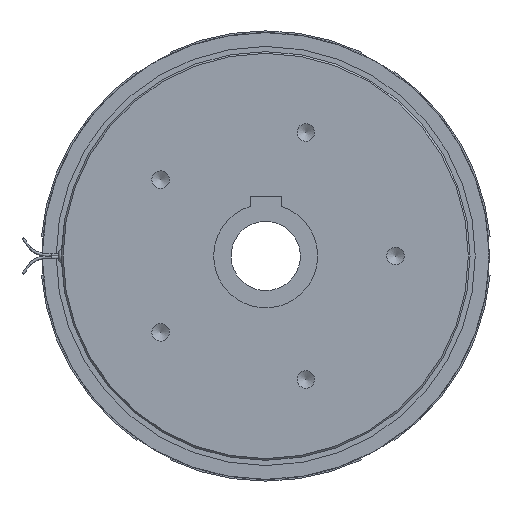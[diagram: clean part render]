
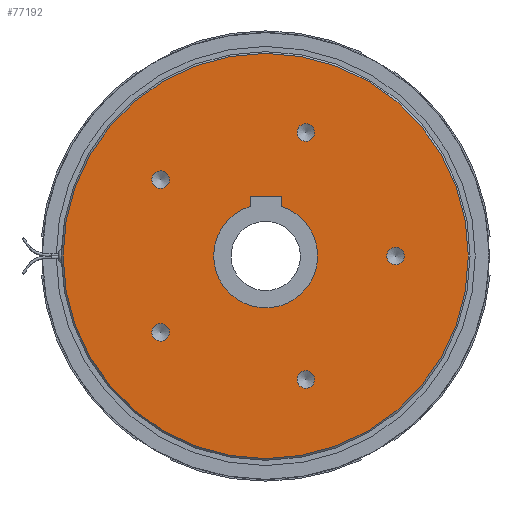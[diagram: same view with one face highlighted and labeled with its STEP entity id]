
A CAD part, left-side view. The second image highlights one B-rep face of the part: STEP entity #77192.
In plain terms, the highlighted planar face has unit normal (-1, 0, 0).
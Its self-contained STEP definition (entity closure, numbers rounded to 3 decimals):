
#898=FACE_BOUND('',#9216,.T.);
#899=FACE_BOUND('',#9217,.T.);
#900=FACE_BOUND('',#9218,.T.);
#901=FACE_BOUND('',#9219,.T.);
#902=FACE_BOUND('',#9220,.T.);
#903=FACE_BOUND('',#9221,.T.);
#1404=PLANE('',#87328);
#5106=FACE_OUTER_BOUND('',#9215,.T.);
#9215=EDGE_LOOP('',(#65307));
#9216=EDGE_LOOP('',(#65308));
#9217=EDGE_LOOP('',(#65309));
#9218=EDGE_LOOP('',(#65310));
#9219=EDGE_LOOP('',(#65311));
#9220=EDGE_LOOP('',(#65312));
#9221=EDGE_LOOP('',(#65313,#65314,#65315,#65316));
#13656=LINE('',#137771,#18150);
#13659=LINE('',#137777,#18153);
#13663=LINE('',#137784,#18157);
#18150=VECTOR('',#111695,10.);
#18153=VECTOR('',#111700,10.);
#18157=VECTOR('',#111706,10.);
#24655=CIRCLE('',#87329,117.);
#24656=CIRCLE('',#87330,5.053);
#24657=CIRCLE('',#87331,5.053);
#24658=CIRCLE('',#87332,5.053);
#24659=CIRCLE('',#87333,5.053);
#24660=CIRCLE('',#87334,5.053);
#24661=CIRCLE('',#87335,30.);
#32073=VERTEX_POINT('',#137768);
#32074=VERTEX_POINT('',#137770);
#32076=VERTEX_POINT('',#137776);
#32078=VERTEX_POINT('',#137782);
#32079=VERTEX_POINT('',#137786);
#32080=VERTEX_POINT('',#137788);
#32081=VERTEX_POINT('',#137790);
#32082=VERTEX_POINT('',#137792);
#32083=VERTEX_POINT('',#137794);
#32084=VERTEX_POINT('',#137796);
#43217=EDGE_CURVE('',#32074,#32073,#13656,.T.);
#43220=EDGE_CURVE('',#32076,#32074,#13659,.T.);
#43224=EDGE_CURVE('',#32073,#32078,#13663,.T.);
#43225=EDGE_CURVE('',#32079,#32079,#24655,.T.);
#43226=EDGE_CURVE('',#32080,#32080,#24656,.T.);
#43227=EDGE_CURVE('',#32081,#32081,#24657,.T.);
#43228=EDGE_CURVE('',#32082,#32082,#24658,.T.);
#43229=EDGE_CURVE('',#32083,#32083,#24659,.T.);
#43230=EDGE_CURVE('',#32084,#32084,#24660,.T.);
#43231=EDGE_CURVE('',#32076,#32078,#24661,.T.);
#65307=ORIENTED_EDGE('',*,*,#43225,.F.);
#65308=ORIENTED_EDGE('',*,*,#43226,.T.);
#65309=ORIENTED_EDGE('',*,*,#43227,.T.);
#65310=ORIENTED_EDGE('',*,*,#43228,.T.);
#65311=ORIENTED_EDGE('',*,*,#43229,.T.);
#65312=ORIENTED_EDGE('',*,*,#43230,.T.);
#65313=ORIENTED_EDGE('',*,*,#43220,.T.);
#65314=ORIENTED_EDGE('',*,*,#43217,.T.);
#65315=ORIENTED_EDGE('',*,*,#43224,.T.);
#65316=ORIENTED_EDGE('',*,*,#43231,.F.);
#77192=ADVANCED_FACE('',(#5106,#898,#899,#900,#901,#902,#903),#1404,.T.);
#87328=AXIS2_PLACEMENT_3D('',#137785,#111707,#111708);
#87329=AXIS2_PLACEMENT_3D('',#137787,#111709,#111710);
#87330=AXIS2_PLACEMENT_3D('',#137789,#111711,#111712);
#87331=AXIS2_PLACEMENT_3D('',#137791,#111713,#111714);
#87332=AXIS2_PLACEMENT_3D('',#137793,#111715,#111716);
#87333=AXIS2_PLACEMENT_3D('',#137795,#111717,#111718);
#87334=AXIS2_PLACEMENT_3D('',#137797,#111719,#111720);
#87335=AXIS2_PLACEMENT_3D('',#137798,#111721,#111722);
#111695=DIRECTION('',(0.,-1.,0.));
#111700=DIRECTION('',(0.,0.,1.));
#111706=DIRECTION('',(0.,0.,-1.));
#111707=DIRECTION('center_axis',(-1.,0.,0.));
#111708=DIRECTION('ref_axis',(0.,0.,
1.));
#111709=DIRECTION('center_axis',(1.,0.,0.));
#111710=DIRECTION('ref_axis',(0.,-1.,0.));
#111711=DIRECTION('center_axis',(1.,0.,0.));
#111712=DIRECTION('ref_axis',(0.,-0.951,
0.309));
#111713=DIRECTION('center_axis',(1.,0.,0.));
#111714=DIRECTION('ref_axis',(0.,-0.588,-0.809));
#111715=DIRECTION('center_axis',(1.,0.,0.));
#111716=DIRECTION('ref_axis',(0.,0.588,-0.809));
#111717=DIRECTION('center_axis',(1.,0.,0.));
#111718=DIRECTION('ref_axis',(0.,0.951,0.309));
#111719=DIRECTION('center_axis',(1.,0.,0.));
#111720=DIRECTION('ref_axis',(0.,0.,
1.));
#111721=DIRECTION('center_axis',(-1.,0.,0.));
#111722=DIRECTION('ref_axis',(0.,0.,
1.));
#137768=CARTESIAN_POINT('',(-8.23,-22.654,34.4));
#137770=CARTESIAN_POINT('',(-8.23,-4.654,34.4));
#137771=CARTESIAN_POINT('',(-8.23,5.846,34.4));
#137776=CARTESIAN_POINT('',(-8.23,-4.654,28.618));
#137777=CARTESIAN_POINT('',(-8.23,-4.654,14.309));
#137782=CARTESIAN_POINT('',(-8.23,-22.654,28.618));
#137784=CARTESIAN_POINT('',(-8.23,-22.654,17.2));
#137785=CARTESIAN_POINT('Origin',(-8.23,16.346,0.));
#137786=CARTESIAN_POINT('',(-8.23,103.346,0.));
#137787=CARTESIAN_POINT('Origin',(-8.23,-13.654,0.));
#137788=CARTESIAN_POINT('',(-8.23,-32.025,-72.891));
#137789=CARTESIAN_POINT('Origin',(-8.23,-36.831,-71.329));
#137790=CARTESIAN_POINT('',(-8.23,49.992,-39.996));
#137791=CARTESIAN_POINT('Origin',(-8.23,47.022,-44.084));
#137792=CARTESIAN_POINT('',(-8.23,44.052,48.172));
#137793=CARTESIAN_POINT('Origin',(-8.23,47.022,44.084));
#137794=CARTESIAN_POINT('',(-8.23,-41.636,69.768));
#137795=CARTESIAN_POINT('Origin',(-8.23,-36.831,71.329));
#137796=CARTESIAN_POINT('',(-8.23,-88.654,-5.053));
#137797=CARTESIAN_POINT('Origin',(-8.23,-88.654,0.));
#137798=CARTESIAN_POINT('Origin',(-8.23,-13.654,0.));
